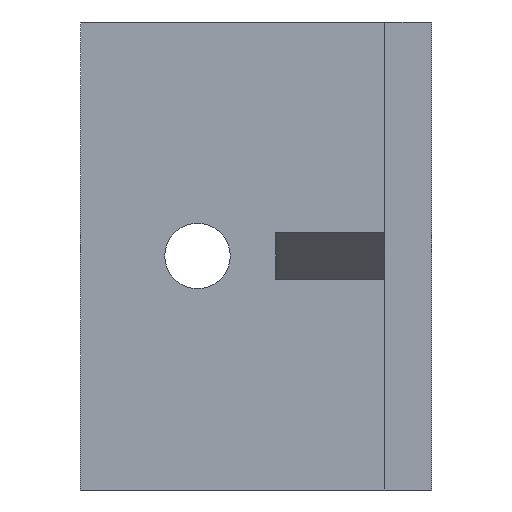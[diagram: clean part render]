
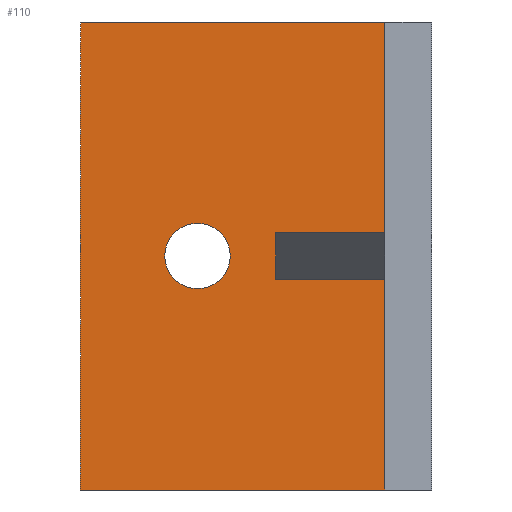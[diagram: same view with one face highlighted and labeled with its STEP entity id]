
A CAD part, left-side view. The second image highlights one B-rep face of the part: STEP entity #110.
In plain terms, the highlighted planar face has unit normal (-1, 0, 0).
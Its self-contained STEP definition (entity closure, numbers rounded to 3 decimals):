
#1 = AXIS2_PLACEMENT_3D ( 'NONE', #6, #355, #199 ) ;
#6 = CARTESIAN_POINT ( 'NONE',  ( -3., 15., 0. ) ) ;
#24 = VERTEX_POINT ( 'NONE', #65 ) ;
#25 = LINE ( 'NONE', #429, #437 ) ;
#27 = ORIENTED_EDGE ( 'NONE', *, *, #54, .F. ) ;
#28 = CARTESIAN_POINT ( 'NONE',  ( -3., 22.5, 15. ) ) ;
#31 = EDGE_CURVE ( 'NONE', #177, #456, #241, .T. ) ;
#42 = ORIENTED_EDGE ( 'NONE', *, *, #425, .F. ) ;
#44 = CARTESIAN_POINT ( 'NONE',  ( -3., 3., 1.5 ) ) ;
#50 = DIRECTION ( 'NONE',  ( 0., 1., 0. ) ) ;
#54 = EDGE_CURVE ( 'NONE', #219, #147, #122, .T. ) ;
#65 = CARTESIAN_POINT ( 'NONE',  ( -3., 15., 2.1 ) ) ;
#67 = ORIENTED_EDGE ( 'NONE', *, *, #71, .F. ) ;
#70 = EDGE_LOOP ( 'NONE', ( #67, #89, #266, #194, #27, #42, #292, #275 ) ) ;
#71 = EDGE_CURVE ( 'NONE', #382, #384, #200, .T. ) ;
#74 = DIRECTION ( 'NONE',  ( 0., 1., 0. ) ) ;
#78 = VERTEX_POINT ( 'NONE', #357 ) ;
#86 = EDGE_CURVE ( 'NONE', #384, #78, #349, .T. ) ;
#88 = DIRECTION ( 'NONE',  ( 0., 0., -1. ) ) ;
#89 = ORIENTED_EDGE ( 'NONE', *, *, #372, .F. ) ;
#90 = DIRECTION ( 'NONE',  ( 0., 1., 0. ) ) ;
#103 = VECTOR ( 'NONE', #90, 1000. ) ;
#108 = CARTESIAN_POINT ( 'NONE',  ( -3., 0., -1.5 ) ) ;
#110 = ADVANCED_FACE ( 'NONE', ( #243, #392 ), #354, .T. ) ;
#120 = CARTESIAN_POINT ( 'NONE',  ( -3., 10., 15. ) ) ;
#122 = LINE ( 'NONE', #440, #103 ) ;
#124 = CARTESIAN_POINT ( 'NONE',  ( -3., 0., 15. ) ) ;
#147 = VERTEX_POINT ( 'NONE', #334 ) ;
#153 = AXIS2_PLACEMENT_3D ( 'NONE', #124, #277, #435 ) ;
#156 = CARTESIAN_POINT ( 'NONE',  ( -3., 22.5, 15. ) ) ;
#159 = CIRCLE ( 'NONE', #1, 2.1 ) ;
#177 = VERTEX_POINT ( 'NONE', #488 ) ;
#194 = ORIENTED_EDGE ( 'NONE', *, *, #512, .T. ) ;
#199 = DIRECTION ( 'NONE',  ( 0., 0., 1. ) ) ;
#200 = LINE ( 'NONE', #466, #370 ) ;
#203 = VECTOR ( 'NONE', #88, 1000. ) ;
#219 = VERTEX_POINT ( 'NONE', #441 ) ;
#241 = LINE ( 'NONE', #280, #507 ) ;
#243 = FACE_BOUND ( 'NONE', #495, .T. ) ;
#254 = ORIENTED_EDGE ( 'NONE', *, *, #416, .F. ) ;
#266 = ORIENTED_EDGE ( 'NONE', *, *, #31, .T. ) ;
#275 = ORIENTED_EDGE ( 'NONE', *, *, #86, .F. ) ;
#277 = DIRECTION ( 'NONE',  ( -1., 0., 0. ) ) ;
#279 = VECTOR ( 'NONE', #285, 1000. ) ;
#280 = CARTESIAN_POINT ( 'NONE',  ( -3., 0., 15. ) ) ;
#285 = DIRECTION ( 'NONE',  ( 0., 0., -1. ) ) ;
#292 = ORIENTED_EDGE ( 'NONE', *, *, #304, .T. ) ;
#304 = EDGE_CURVE ( 'NONE', #489, #78, #423, .T. ) ;
#309 = CARTESIAN_POINT ( 'NONE',  ( -3., 10., 1.5 ) ) ;
#313 = LINE ( 'NONE', #315, #203 ) ;
#315 = CARTESIAN_POINT ( 'NONE',  ( -3., 3., 15. ) ) ;
#334 = CARTESIAN_POINT ( 'NONE',  ( -3., 22.5, -15. ) ) ;
#349 = LINE ( 'NONE', #120, #451 ) ;
#354 = PLANE ( 'NONE',  #153 ) ;
#355 = DIRECTION ( 'NONE',  ( -1., 0., 0. ) ) ;
#357 = CARTESIAN_POINT ( 'NONE',  ( -3., 10., -1.5 ) ) ;
#370 = VECTOR ( 'NONE', #50, 1000. ) ;
#372 = EDGE_CURVE ( 'NONE', #177, #382, #25, .T. ) ;
#382 = VERTEX_POINT ( 'NONE', #44 ) ;
#384 = VERTEX_POINT ( 'NONE', #309 ) ;
#391 = DIRECTION ( 'NONE',  ( 0., 0., -1. ) ) ;
#392 = FACE_OUTER_BOUND ( 'NONE', #70, .T. ) ;
#396 = DIRECTION ( 'NONE',  ( 0., 1., 0. ) ) ;
#416 = EDGE_CURVE ( 'NONE', #24, #24, #159, .T. ) ;
#423 = LINE ( 'NONE', #108, #436 ) ;
#425 = EDGE_CURVE ( 'NONE', #489, #219, #313, .T. ) ;
#429 = CARTESIAN_POINT ( 'NONE',  ( -3., 3., 15. ) ) ;
#431 = CARTESIAN_POINT ( 'NONE',  ( -3., 3., -1.5 ) ) ;
#435 = DIRECTION ( 'NONE',  ( 0., 0., 1. ) ) ;
#436 = VECTOR ( 'NONE', #74, 1000. ) ;
#437 = VECTOR ( 'NONE', #391, 1000. ) ;
#440 = CARTESIAN_POINT ( 'NONE',  ( -3., 0., -15. ) ) ;
#441 = CARTESIAN_POINT ( 'NONE',  ( -3., 3., -15. ) ) ;
#451 = VECTOR ( 'NONE', #511, 1000. ) ;
#456 = VERTEX_POINT ( 'NONE', #156 ) ;
#466 = CARTESIAN_POINT ( 'NONE',  ( -3., 0., 1.5 ) ) ;
#488 = CARTESIAN_POINT ( 'NONE',  ( -3., 3., 15. ) ) ;
#489 = VERTEX_POINT ( 'NONE', #431 ) ;
#495 = EDGE_LOOP ( 'NONE', ( #254 ) ) ;
#496 = LINE ( 'NONE', #28, #279 ) ;
#507 = VECTOR ( 'NONE', #396, 1000. ) ;
#511 = DIRECTION ( 'NONE',  ( 0., 0., -1. ) ) ;
#512 = EDGE_CURVE ( 'NONE', #456, #147, #496, .T. ) ;
